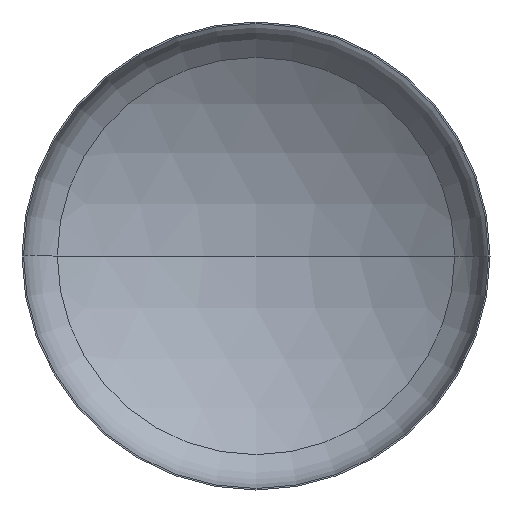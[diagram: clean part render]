
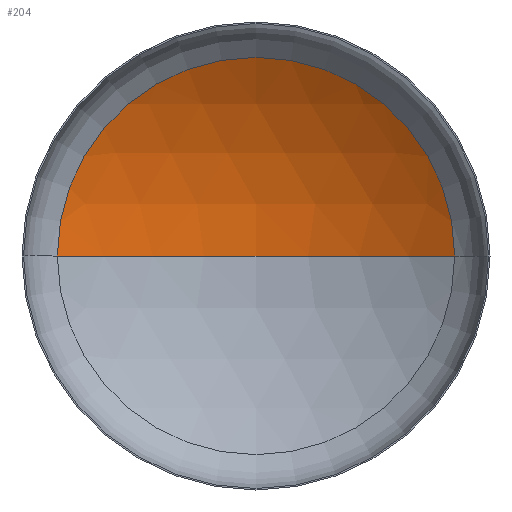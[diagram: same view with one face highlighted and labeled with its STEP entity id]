
A CAD part, front view. The second image highlights one B-rep face of the part: STEP entity #204.
In plain terms, the highlighted spherical face has radius 4800 mm.
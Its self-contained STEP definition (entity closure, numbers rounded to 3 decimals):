
#12 = VERTEX_POINT ( 'NONE', #249 ) ;
#16 = CIRCLE ( 'NONE', #103, 4800. ) ;
#30 = ORIENTED_EDGE ( 'NONE', *, *, #167, .T. ) ;
#33 = VERTEX_POINT ( 'NONE', #95 ) ;
#37 = ORIENTED_EDGE ( 'NONE', *, *, #169, .T. ) ;
#72 = CARTESIAN_POINT ( 'NONE',  ( 0., -3224.584, 0. ) ) ;
#75 = AXIS2_PLACEMENT_3D ( 'NONE', #152, #381, #330 ) ;
#95 = CARTESIAN_POINT ( 'NONE',  ( 2546.787, 844.062, 0. ) ) ;
#96 = AXIS2_PLACEMENT_3D ( 'NONE', #329, #183, #354 ) ;
#103 = AXIS2_PLACEMENT_3D ( 'NONE', #72, #279, #108 ) ;
#105 = AXIS2_PLACEMENT_3D ( 'NONE', #208, #379, #230 ) ;
#108 = DIRECTION ( 'NONE',  ( -1., 0., 0. ) ) ;
#151 = CIRCLE ( 'NONE', #105, 2546.787 ) ;
#152 = CARTESIAN_POINT ( 'NONE',  ( 0., -3224.584, 0. ) ) ;
#167 = EDGE_CURVE ( 'NONE', #33, #200, #151, .T. ) ;
#169 = EDGE_CURVE ( 'NONE', #12, #33, #16, .T. ) ;
#170 = EDGE_CURVE ( 'NONE', #12, #200, #281, .T. ) ;
#183 = DIRECTION ( 'NONE',  ( 0., 0., 1. ) ) ;
#200 = VERTEX_POINT ( 'NONE', #304 ) ;
#204 = ADVANCED_FACE ( 'NONE', ( #331 ), #341, .F. ) ;
#208 = CARTESIAN_POINT ( 'NONE',  ( 0., 844.062, 0. ) ) ;
#230 = DIRECTION ( 'NONE',  ( 1., 0., 0. ) ) ;
#249 = CARTESIAN_POINT ( 'NONE',  ( 0., 1575.416, 0. ) ) ;
#279 = DIRECTION ( 'NONE',  ( 0., 0., -1. ) ) ;
#281 = CIRCLE ( 'NONE', #96, 4800. ) ;
#304 = CARTESIAN_POINT ( 'NONE',  ( -2546.787, 844.062, 0. ) ) ;
#329 = CARTESIAN_POINT ( 'NONE',  ( 0., -3224.584, 0. ) ) ;
#330 = DIRECTION ( 'NONE',  ( -1., 0., 0. ) ) ;
#331 = FACE_OUTER_BOUND ( 'NONE', #386, .T. ) ;
#341 = SPHERICAL_SURFACE ( 'NONE', #75, 4800. ) ;
#354 = DIRECTION ( 'NONE',  ( 1., 0., 0. ) ) ;
#379 = DIRECTION ( 'NONE',  ( 0., -1., 0. ) ) ;
#380 = ORIENTED_EDGE ( 'NONE', *, *, #170, .F. ) ;
#381 = DIRECTION ( 'NONE',  ( 0., 0., -1. ) ) ;
#386 = EDGE_LOOP ( 'NONE', ( #380, #37, #30 ) ) ;
